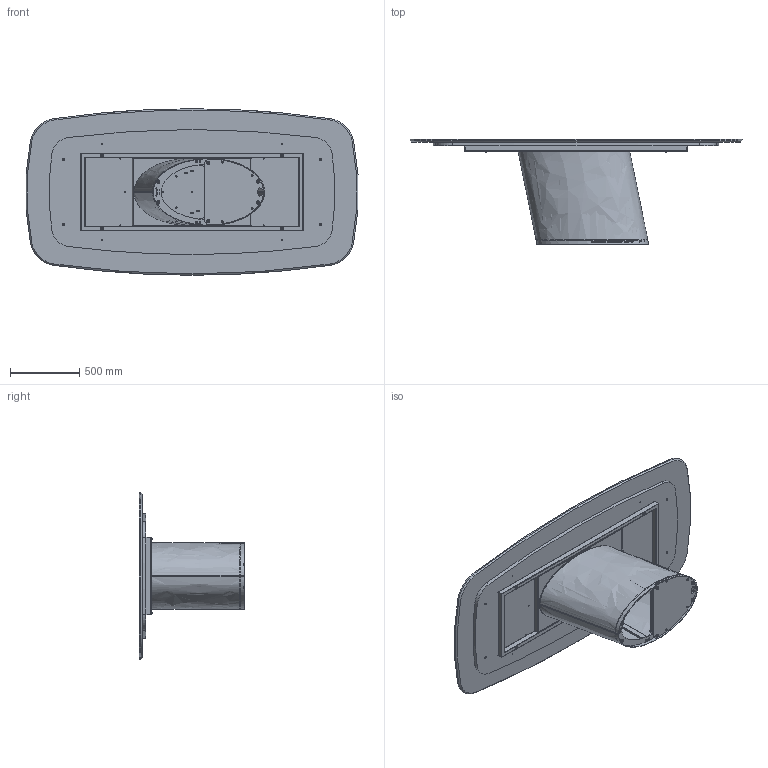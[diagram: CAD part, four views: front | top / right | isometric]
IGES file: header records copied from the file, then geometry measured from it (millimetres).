
Start section: SolidWorks IGES file using analytic representation for surfaces
Global section: file name: Y:\eforma\TECNICO\SOLIDWORKS\E-FORMA\1-TAVOLI\DORADO\02 parts\DO43M.IGS; native system: SolidWorks 2022; preprocessor: SolidWorks 2022; author: eforma.tech; date: 240806.151551; units: millimetre
Bounding box: 2391.9 x 757 x 1200 mm (x, y, z)
Volume: 107954401.5 mm3; surface area: 16245374.9 mm2
Topology: 54 solids, 54 shells, 1521 faces, 3635 edges, 2209 vertices
Faces by surface type: revolution 985, plane 510, bspline 26
